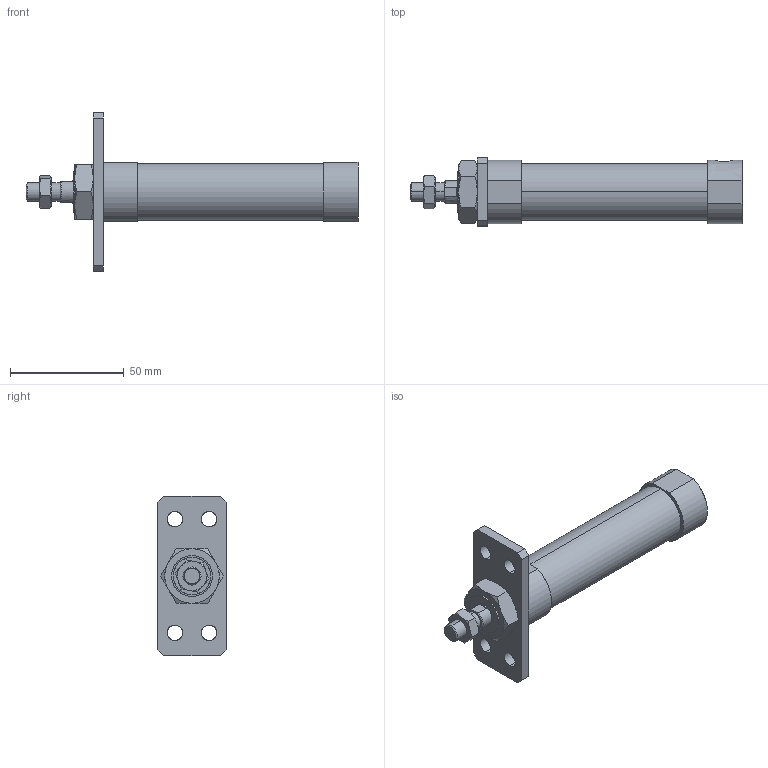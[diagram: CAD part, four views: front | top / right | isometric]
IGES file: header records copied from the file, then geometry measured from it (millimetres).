
Start section: SolidWorks IGES file using analytic representation for surfaces
Global section: file name: C:\Users\Toshiba\Desktop\JGND1-20-15(25)-A.IGS; native system: SolidWorks 2014; preprocessor: SolidWorks 2014; author: Toshiba; date: 160804.101217; units: millimetre
Bounding box: 146 x 30 x 70 mm (x, y, z)
Surface area: 19130.5 mm2 (no closed solid volume)
Topology: 0 solids, 0 shells, 101 faces, 1770 edges, 1770 vertices
Faces by surface type: bspline 67, revolution 34
